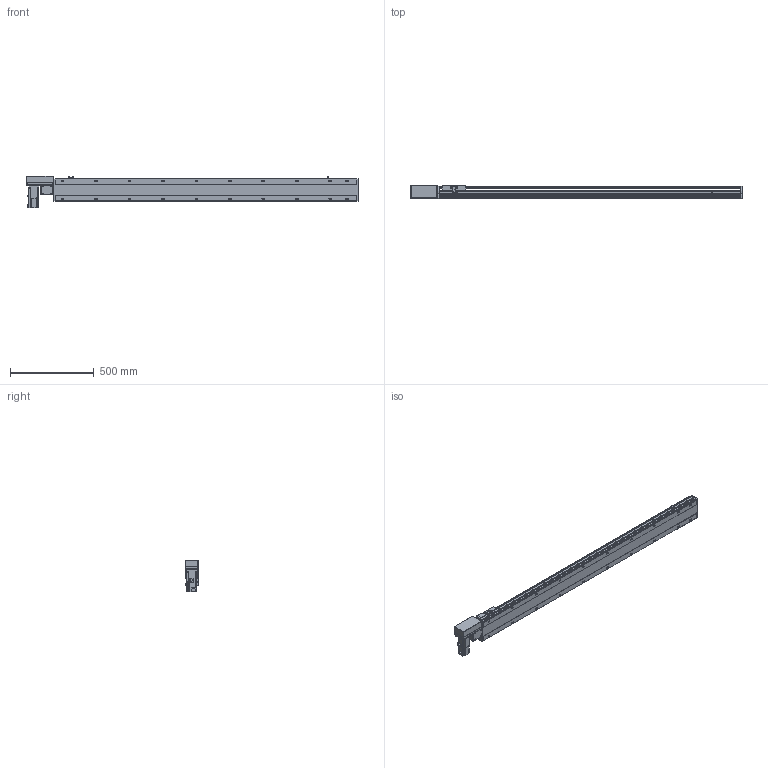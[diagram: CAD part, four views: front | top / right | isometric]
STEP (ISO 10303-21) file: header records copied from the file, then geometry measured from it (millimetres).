
FILE_DESCRIPTION(/* description */ ('STEP AP214'),/* implementation_level */ '2;1');
FILE_NAME(/* name */ 'PBS140-P40-S1550-R-T40-C1-N(0)',/* time_stamp */ '2022-06-06T03:28:44+02:00',/* author */ ('License CC BY-ND 4.0'),/* organization */ ('CADENAS'),/* preprocessor_version */ 'ST-DEVELOPER v18.102',/* originating_system */ 'PARTsolutions',/* authorisation */ ' ');
FILE_SCHEMA (('AUTOMOTIVE_DESIGN {1 0 10303 214 3 1 1}'));
Length unit declared in the file: millimetre
Products named in the file (7): PBS140-P40-S1550-R-T40-C1-N(0); PBS140_sensor; PBS140_plant; PBS140_sliser; T40-p1; PBS140T-R_motors; PBS140-S1550()_body
Assembly tree (8 placements, depth 2):
  PBS140-P40-S1550-R-T40-C1-N(0)
    PBS140_sensor  x3
    PBS140_plant
    PBS140_sliser
    T40-p1
    PBS140T-R_motors
    PBS140-S1550()_body
Bounding box: 1983 x 80.5 x 189.7 mm (x, y, z)
Volume: 8817786.3 mm3; surface area: 1521390.9 mm2
Topology: 8 solids, 8 shells, 1107 faces, 2916 edges, 1905 vertices
Faces by surface type: plane 704, cylinder 347, cone 46, sphere 8, torus 2
Full cylindrical faces by diameter (mm): 3.242 x4, 4 x2, 4.134 x4, 4.4 x8, 4.5 x2, 4.8 x4, 4.917 x28, 5.5 x7, 6 x2, 7 x22, 7.5 x8, 8 x12, 8.5 x4, 10.5 x20, 14 x1, 30 x2, 50 x2
Entity records: 31561 total; most frequent: CARTESIAN_POINT 5889, DIRECTION 5337, ORIENTED_EDGE 5032, EDGE_CURVE 2516, AXIS2_PLACEMENT_3D 1867, VERTEX_POINT 1749, LINE 1603, VECTOR 1603
